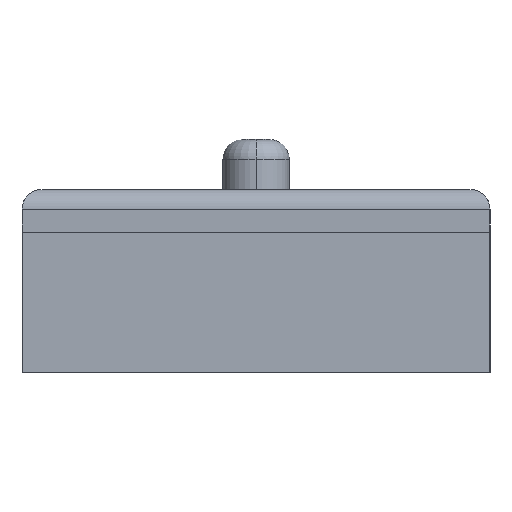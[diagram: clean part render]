
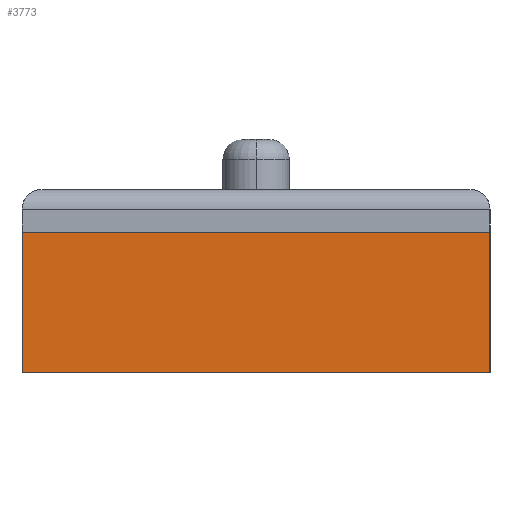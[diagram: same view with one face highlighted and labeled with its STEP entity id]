
A CAD part, left-side view. The second image highlights one B-rep face of the part: STEP entity #3773.
In plain terms, the highlighted planar face has unit normal (-1, 0, 0).
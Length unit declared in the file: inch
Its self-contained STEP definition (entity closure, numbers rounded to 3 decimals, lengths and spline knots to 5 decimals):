
#395 = CARTESIAN_POINT ( 'NONE',  ( 0.906, 3.5, -1.37 ) ) ;
#403 = CARTESIAN_POINT ( 'NONE',  ( 0.906, 3.5, -0.32 ) ) ;
#712 = EDGE_CURVE ( 'NONE', #4380, #4379, #1397, .T. ) ;
#728 = EDGE_CURVE ( 'NONE', #4222, #4220, #1508, .T. ) ;
#734 = EDGE_CURVE ( 'NONE', #4379, #4220, #1638, .T. ) ;
#735 = EDGE_CURVE ( 'NONE', #4380, #4222, #1427, .T. ) ;
#1070 = CARTESIAN_POINT ( 'NONE',  ( 0.906, 0., -0.32 ) ) ;
#1072 = CARTESIAN_POINT ( 'NONE',  ( 0.906, 0., -1.37 ) ) ;
#1099 = DIRECTION ( 'NONE',  ( 0., 1., 0. ) ) ;
#1100 = DIRECTION ( 'NONE',  ( 1., 0., 0. ) ) ;
#1105 = PLANE ( 'NONE',  #6682 ) ;
#1110 = CARTESIAN_POINT ( 'NONE',  ( 0.906, 3.5, -0.32 ) ) ;
#1341 = VECTOR ( 'NONE', #3144, 39.37008 ) ;
#1397 = LINE ( 'NONE', #3028, #1341 ) ;
#1427 = LINE ( 'NONE', #3568, #1648 ) ;
#1454 = VECTOR ( 'NONE', #3582, 39.37008 ) ;
#1508 = LINE ( 'NONE', #2871, #1707 ) ;
#1638 = LINE ( 'NONE', #2833, #1454 ) ;
#1648 = VECTOR ( 'NONE', #3580, 39.37008 ) ;
#1707 = VECTOR ( 'NONE', #2865, 39.37008 ) ;
#2833 = CARTESIAN_POINT ( 'NONE',  ( 0.906, 3.5, -1.37 ) ) ;
#2865 = DIRECTION ( 'NONE',  ( 0., 0., -1. ) ) ;
#2871 = CARTESIAN_POINT ( 'NONE',  ( 0.906, 0., -0.32 ) ) ;
#3028 = CARTESIAN_POINT ( 'NONE',  ( 0.906, 3.5, -0.32 ) ) ;
#3144 = DIRECTION ( 'NONE',  ( 0., 0., -1. ) ) ;
#3568 = CARTESIAN_POINT ( 'NONE',  ( 0.906, 3.5, -0.32 ) ) ;
#3580 = DIRECTION ( 'NONE',  ( 0., -1., 0. ) ) ;
#3582 = DIRECTION ( 'NONE',  ( 0., -1., 0. ) ) ;
#3773 = ADVANCED_FACE ( 'NONE', ( #4080 ), #1105, .F. ) ;
#4080 = FACE_OUTER_BOUND ( 'NONE', #5518, .T. ) ;
#4220 = VERTEX_POINT ( 'NONE', #1072 ) ;
#4222 = VERTEX_POINT ( 'NONE', #1070 ) ;
#4379 = VERTEX_POINT ( 'NONE', #395 ) ;
#4380 = VERTEX_POINT ( 'NONE', #403 ) ;
#5518 = EDGE_LOOP ( 'NONE', ( #5925, #5924, #5923, #5922 ) ) ;
#5922 = ORIENTED_EDGE ( 'NONE', *, *, #712, .T. ) ;
#5923 = ORIENTED_EDGE ( 'NONE', *, *, #735, .F. ) ;
#5924 = ORIENTED_EDGE ( 'NONE', *, *, #728, .F. ) ;
#5925 = ORIENTED_EDGE ( 'NONE', *, *, #734, .T. ) ;
#6682 = AXIS2_PLACEMENT_3D ( 'NONE', #1110, #1100, #1099 ) ;
